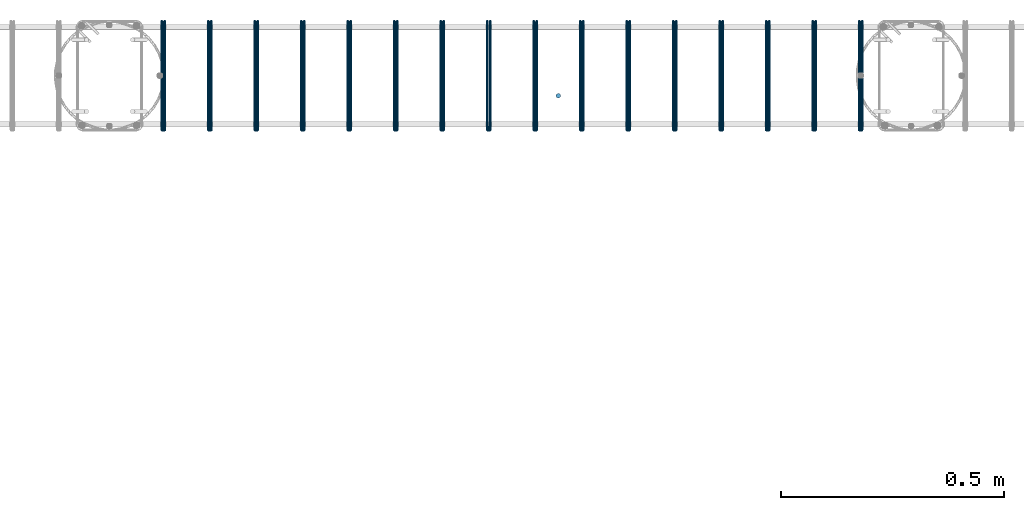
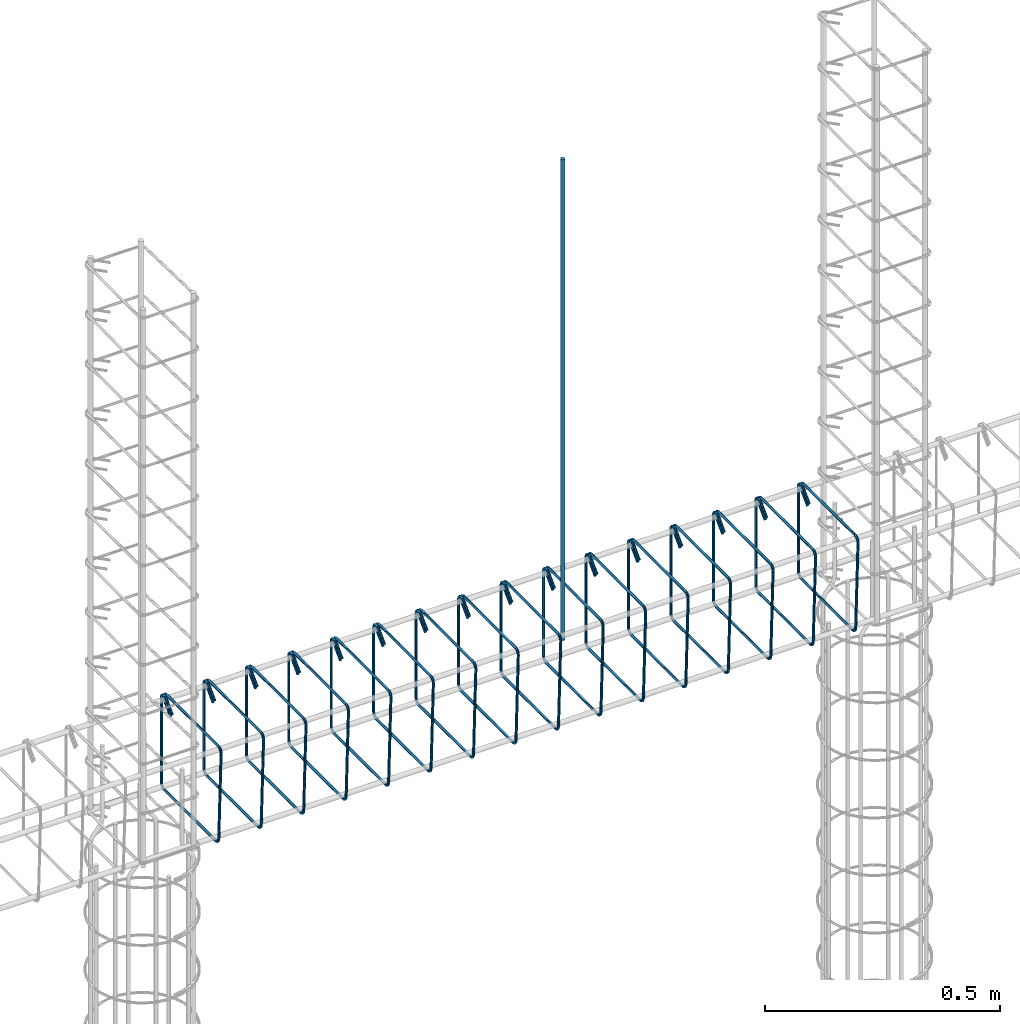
# One storey, part 8 of 14: 2 reinforcing bars.
"""IFC4 building model written with IfcOpenShell, lengths in centimetres."""

from ifc_helpers import new_model, entity, si_unit, converted_unit, derived_unit, direction, frame, origin, place, context, subcontext, project, spatial, type_object, element, save


model = new_model("IFC4")

# Units and contexts
model_context = context("Model", 3, precision=0.001, world=origin(), true_north=direction((6.123233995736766e-17, 1.0)))
body_context = subcontext(model_context, "Body", "Model", "MODEL_VIEW")
ifc_project = project(units=[si_unit("LENGTHUNIT", "METRE", prefix="CENTI"), si_unit("AREAUNIT", "SQUARE_METRE"), converted_unit("PLANEANGLEUNIT", "DEGREE", entity("IfcPlaneAngleMeasure", 0.017453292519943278), si_unit("PLANEANGLEUNIT", "RADIAN"), dimensions=[0, 0, 0, 0, 0, 0, 0]), si_unit("VOLUMEUNIT", "CUBIC_METRE"), derived_unit("THERMALTRANSMITTANCEUNIT", [(si_unit("MASSUNIT", "GRAM", prefix="KILO"), 1), (si_unit("THERMODYNAMICTEMPERATUREUNIT", "KELVIN"), -1), (si_unit("TIMEUNIT", "SECOND"), -3)])], contexts=[model_context])

# Site, building, storey
site_placement = place(None, origin())
site = spatial("IfcSite", under=ifc_project, at=site_placement, Name="Default", CompositionType="ELEMENT")
building_placement = place(site_placement, origin())
building = spatial("IfcBuilding", under=site, at=building_placement, Name="CONTENÇÃO DE ARQUIBANCADA - GINÁSIO PADRÃO", CompositionType="ELEMENT")
storey_placement = place(building_placement, frame((0.0, 0.0, -100.0)))
storey = spatial("IfcBuildingStorey", under=building, at=storey_placement, Name="Nível 3", CompositionType="ELEMENT", Elevation=-100.0)

# Reinforcing bars
reinforcing_bar_type_1 = type_object("IfcReinforcingBarType", Name="Barra do vergalhão:10 CA-50", PredefinedType="NOTDEFINED")
reinforcing_bar_1_placement = place(storey_placement, origin())
element("IfcReinforcingBar", 1, at=reinforcing_bar_1_placement, inside=storey, type_object=reinforcing_bar_type_1, Name="Barra do vergalhão:10 CA-50 : Forma 01", ObjectType="Barra do vergalhão:10 CA-50", context=body_context, shape_type="AdvancedSweptSolid", body=[
    entity("IfcSweptDiskSolid", entity("IfcIndexedPolyCurve", entity("IfcCartesianPointList3D", [[295.2053160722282, 244.57417522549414, 89.99999999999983], [295.2053160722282, 244.57417522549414, 214.99999999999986]]), None, False), 0.5, None, 0.0, 1.0),
])
reinforcing_bar_type_2 = type_object("IfcReinforcingBarType", Name="Barra do vergalhão:6.3 CA-50", PredefinedType="NOTDEFINED")
reinforcing_bar_2_placement = place(storey_placement, origin())
element("IfcReinforcingBar", 2, at=reinforcing_bar_2_placement, inside=storey, type_object=reinforcing_bar_type_2, Name="Barra do vergalhão:6.3 CA-50 : Forma 22", ObjectType="Barra do vergalhão:6.3 CA-50", context=body_context, shape_type="AdvancedSweptSolid", body=[
    entity("IfcSweptDiskSolid", entity("IfcIndexedPolyCurve", entity("IfcCartesianPointList3D", [[362.76131571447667, 256.5582557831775, 94.26598964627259], [362.76131571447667, 259.1082206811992, 96.8159545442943], [362.76131571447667, 260.48135635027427, 97.08908821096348], [362.76131571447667, 261.2591752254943, 95.92499999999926], [362.76131571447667, 261.25917522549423, 74.07499999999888], [362.76131571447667, 260.8901297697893, 73.18404545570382], [362.76131571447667, 259.9991752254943, 72.81499999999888], [362.76131571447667, 238.1491752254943, 72.81499999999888], [362.77085289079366, 237.25822068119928, 73.1839222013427], [362.79387767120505, 236.88917522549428, 74.0745791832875], [363.3587537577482, 236.88917522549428, 95.92542081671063], [363.38177853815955, 237.25822068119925, 96.81607779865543], [363.39131571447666, 238.1491752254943, 97.18499999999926], [363.3913157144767, 259.99917522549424, 97.18499999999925], [363.3913157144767, 261.16326343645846, 96.40718112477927], [363.3913157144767, 260.8901297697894, 95.0340454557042], [363.3913157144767, 258.3401648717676, 92.48408055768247]]), [entity("IfcLineIndex", [1, 2]), entity("IfcArcIndex", [2, 3, 4]), entity("IfcLineIndex", [4, 5]), entity("IfcArcIndex", [5, 6, 7]), entity("IfcLineIndex", [7, 8]), entity("IfcArcIndex", [8, 9, 10]), entity("IfcLineIndex", [10, 11]), entity("IfcArcIndex", [11, 12, 13]), entity("IfcLineIndex", [13, 14]), entity("IfcArcIndex", [14, 15, 16]), entity("IfcLineIndex", [16, 17])], False), 0.31499999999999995, None, 0.0, 546.0000000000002),
    entity("IfcSweptDiskSolid", entity("IfcIndexedPolyCurve", entity("IfcCartesianPointList3D", [[352.3255251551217, 256.5582557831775, 94.26598964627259], [352.3255251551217, 259.1082206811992, 96.8159545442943], [352.3255251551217, 260.48135635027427, 97.08908821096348], [352.3255251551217, 261.2591752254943, 95.92499999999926], [352.3255251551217, 261.25917522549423, 74.07499999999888], [352.3255251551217, 260.8901297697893, 73.18404545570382], [352.3255251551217, 259.9991752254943, 72.81499999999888], [352.3255251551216, 238.14917522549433, 72.81499999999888], [352.3350623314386, 237.2582206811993, 73.1839222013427], [352.35808711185, 236.8891752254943, 74.0745791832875], [352.9229631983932, 236.8891752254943, 95.92542081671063], [352.94598797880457, 237.25822068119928, 96.81607779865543], [352.9555251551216, 238.14917522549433, 97.18499999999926], [352.9555251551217, 259.99917522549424, 97.18499999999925], [352.9555251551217, 261.16326343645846, 96.40718112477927], [352.9555251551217, 260.8901297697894, 95.0340454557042], [352.9555251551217, 258.3401648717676, 92.48408055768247]]), [entity("IfcLineIndex", [1, 2]), entity("IfcArcIndex", [2, 3, 4]), entity("IfcLineIndex", [4, 5]), entity("IfcArcIndex", [5, 6, 7]), entity("IfcLineIndex", [7, 8]), entity("IfcArcIndex", [8, 9, 10]), entity("IfcLineIndex", [10, 11]), entity("IfcArcIndex", [11, 12, 13]), entity("IfcLineIndex", [13, 14]), entity("IfcArcIndex", [14, 15, 16]), entity("IfcLineIndex", [16, 17])], False), 0.31499999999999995, None, 0.0, 546.0000000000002),
    entity("IfcSweptDiskSolid", entity("IfcIndexedPolyCurve", entity("IfcCartesianPointList3D", [[341.8897345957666, 256.5582557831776, 94.26598964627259], [341.8897345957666, 259.10822068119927, 96.8159545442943], [341.8897345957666, 260.4813563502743, 97.08908821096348], [341.8897345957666, 261.25917522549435, 95.92499999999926], [341.8897345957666, 261.2591752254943, 74.07499999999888], [341.8897345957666, 260.8901297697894, 73.18404545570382], [341.8897345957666, 259.99917522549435, 72.81499999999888], [341.8897345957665, 238.14917522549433, 72.81499999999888], [341.8992717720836, 237.2582206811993, 73.1839222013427], [341.92229655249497, 236.8891752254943, 74.0745791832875], [342.4871726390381, 236.8891752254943, 95.92542081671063], [342.51019741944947, 237.25822068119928, 96.81607779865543], [342.5197345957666, 238.14917522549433, 97.18499999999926], [342.51973459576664, 259.9991752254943, 97.18499999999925], [342.51973459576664, 261.1632634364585, 96.40718112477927], [342.51973459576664, 260.8901297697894, 95.0340454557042], [342.51973459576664, 258.3401648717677, 92.48408055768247]]), [entity("IfcLineIndex", [1, 2]), entity("IfcArcIndex", [2, 3, 4]), entity("IfcLineIndex", [4, 5]), entity("IfcArcIndex", [5, 6, 7]), entity("IfcLineIndex", [7, 8]), entity("IfcArcIndex", [8, 9, 10]), entity("IfcLineIndex", [10, 11]), entity("IfcArcIndex", [11, 12, 13]), entity("IfcLineIndex", [13, 14]), entity("IfcArcIndex", [14, 15, 16]), entity("IfcLineIndex", [16, 17])], False), 0.31499999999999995, None, 0.0, 546.0000000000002),
    entity("IfcSweptDiskSolid", entity("IfcIndexedPolyCurve", entity("IfcCartesianPointList3D", [[331.45394403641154, 256.5582557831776, 94.26598964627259], [331.45394403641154, 259.10822068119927, 96.8159545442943], [331.45394403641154, 260.4813563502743, 97.08908821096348], [331.45394403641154, 261.25917522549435, 95.92499999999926], [331.45394403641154, 261.2591752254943, 74.07499999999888], [331.45394403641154, 260.8901297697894, 73.18404545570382], [331.45394403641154, 259.99917522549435, 72.81499999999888], [331.4539440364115, 238.14917522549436, 72.81499999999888], [331.46348121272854, 237.25822068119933, 73.1839222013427], [331.48650599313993, 236.88917522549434, 74.0745791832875], [332.0513820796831, 236.88917522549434, 95.92542081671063], [332.0744068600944, 237.2582206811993, 96.81607779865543], [332.08394403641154, 238.14917522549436, 97.18499999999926], [332.0839440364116, 259.9991752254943, 97.18499999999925], [332.0839440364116, 261.1632634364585, 96.40718112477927], [332.0839440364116, 260.8901297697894, 95.0340454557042], [332.0839440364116, 258.3401648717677, 92.48408055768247]]), [entity("IfcLineIndex", [1, 2]), entity("IfcArcIndex", [2, 3, 4]), entity("IfcLineIndex", [4, 5]), entity("IfcArcIndex", [5, 6, 7]), entity("IfcLineIndex", [7, 8]), entity("IfcArcIndex", [8, 9, 10]), entity("IfcLineIndex", [10, 11]), entity("IfcArcIndex", [11, 12, 13]), entity("IfcLineIndex", [13, 14]), entity("IfcArcIndex", [14, 15, 16]), entity("IfcLineIndex", [16, 17])], False), 0.31499999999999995, None, 0.0, 546.0000000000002),
    entity("IfcSweptDiskSolid", entity("IfcIndexedPolyCurve", entity("IfcCartesianPointList3D", [[321.0181534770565, 256.5582557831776, 94.26598964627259], [321.0181534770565, 259.10822068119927, 96.8159545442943], [321.0181534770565, 260.4813563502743, 97.08908821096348], [321.0181534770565, 261.25917522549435, 95.92499999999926], [321.0181534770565, 261.2591752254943, 74.07499999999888], [321.0181534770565, 260.8901297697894, 73.18404545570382], [321.0181534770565, 259.99917522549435, 72.81499999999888], [321.01815347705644, 238.1491752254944, 72.81499999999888], [321.02769065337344, 237.25822068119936, 73.1839222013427], [321.05071543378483, 236.88917522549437, 74.0745791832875], [321.615591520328, 236.88917522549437, 95.92542081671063], [321.6386163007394, 237.25822068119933, 96.81607779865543], [321.64815347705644, 238.1491752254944, 97.18499999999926], [321.6481534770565, 259.9991752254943, 97.18499999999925], [321.6481534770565, 261.1632634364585, 96.40718112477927], [321.6481534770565, 260.8901297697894, 95.0340454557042], [321.6481534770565, 258.3401648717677, 92.48408055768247]]), [entity("IfcLineIndex", [1, 2]), entity("IfcArcIndex", [2, 3, 4]), entity("IfcLineIndex", [4, 5]), entity("IfcArcIndex", [5, 6, 7]), entity("IfcLineIndex", [7, 8]), entity("IfcArcIndex", [8, 9, 10]), entity("IfcLineIndex", [10, 11]), entity("IfcArcIndex", [11, 12, 13]), entity("IfcLineIndex", [13, 14]), entity("IfcArcIndex", [14, 15, 16]), entity("IfcLineIndex", [16, 17])], False), 0.31499999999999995, None, 0.0, 546.0000000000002),
    entity("IfcSweptDiskSolid", entity("IfcIndexedPolyCurve", entity("IfcCartesianPointList3D", [[310.58236291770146, 256.55825578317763, 94.26598964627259], [310.58236291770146, 259.1082206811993, 96.8159545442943], [310.58236291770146, 260.4813563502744, 97.08908821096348], [310.58236291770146, 261.2591752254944, 95.92499999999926], [310.58236291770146, 261.25917522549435, 74.07499999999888], [310.58236291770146, 260.8901297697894, 73.18404545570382], [310.58236291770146, 259.9991752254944, 72.81499999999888], [310.5823629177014, 238.1491752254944, 72.81499999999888], [310.59190009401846, 237.25822068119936, 73.1839222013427], [310.61492487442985, 236.88917522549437, 74.0745791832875], [311.17980096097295, 236.88917522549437, 95.92542081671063], [311.20282574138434, 237.25822068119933, 96.81607779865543], [311.21236291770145, 238.1491752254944, 97.18499999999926], [311.2123629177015, 259.99917522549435, 97.18499999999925], [311.2123629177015, 261.1632634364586, 96.40718112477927], [311.2123629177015, 260.89012976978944, 95.0340454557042], [311.2123629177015, 258.34016487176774, 92.48408055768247]]), [entity("IfcLineIndex", [1, 2]), entity("IfcArcIndex", [2, 3, 4]), entity("IfcLineIndex", [4, 5]), entity("IfcArcIndex", [5, 6, 7]), entity("IfcLineIndex", [7, 8]), entity("IfcArcIndex", [8, 9, 10]), entity("IfcLineIndex", [10, 11]), entity("IfcArcIndex", [11, 12, 13]), entity("IfcLineIndex", [13, 14]), entity("IfcArcIndex", [14, 15, 16]), entity("IfcLineIndex", [16, 17])], False), 0.31499999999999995, None, 0.0, 546.0000000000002),
    entity("IfcSweptDiskSolid", entity("IfcIndexedPolyCurve", entity("IfcCartesianPointList3D", [[300.14657235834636, 256.55825578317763, 94.26598964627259], [300.14657235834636, 259.1082206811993, 96.8159545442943], [300.14657235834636, 260.4813563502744, 97.08908821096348], [300.14657235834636, 261.2591752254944, 95.92499999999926], [300.14657235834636, 261.25917522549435, 74.07499999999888], [300.14657235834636, 260.8901297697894, 73.18404545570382], [300.14657235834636, 259.9991752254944, 72.81499999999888], [300.14657235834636, 238.14917522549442, 72.81499999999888], [300.15610953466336, 237.2582206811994, 73.1839222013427], [300.17913431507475, 236.8891752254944, 74.0745791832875], [300.7440104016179, 236.8891752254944, 95.92542081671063], [300.7670351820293, 237.25822068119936, 96.81607779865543], [300.77657235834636, 238.14917522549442, 97.18499999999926], [300.7765723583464, 259.99917522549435, 97.18499999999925], [300.7765723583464, 261.1632634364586, 96.40718112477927], [300.7765723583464, 260.89012976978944, 95.0340454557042], [300.7765723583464, 258.34016487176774, 92.48408055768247]]), [entity("IfcLineIndex", [1, 2]), entity("IfcArcIndex", [2, 3, 4]), entity("IfcLineIndex", [4, 5]), entity("IfcArcIndex", [5, 6, 7]), entity("IfcLineIndex", [7, 8]), entity("IfcArcIndex", [8, 9, 10]), entity("IfcLineIndex", [10, 11]), entity("IfcArcIndex", [11, 12, 13]), entity("IfcLineIndex", [13, 14]), entity("IfcArcIndex", [14, 15, 16]), entity("IfcLineIndex", [16, 17])], False), 0.31499999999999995, None, 0.0, 546.0000000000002),
    entity("IfcSweptDiskSolid", entity("IfcIndexedPolyCurve", entity("IfcCartesianPointList3D", [[289.7107817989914, 256.55825578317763, 94.26598964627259], [289.7107817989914, 259.1082206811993, 96.8159545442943], [289.7107817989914, 260.4813563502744, 97.08908821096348], [289.7107817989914, 261.2591752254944, 95.92499999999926], [289.7107817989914, 261.25917522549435, 74.07499999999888], [289.7107817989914, 260.8901297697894, 73.18404545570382], [289.7107817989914, 259.9991752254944, 72.81499999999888], [289.7107817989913, 238.14917522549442, 72.81499999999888], [289.7203189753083, 237.2582206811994, 73.1839222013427], [289.7433437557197, 236.8891752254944, 74.0745791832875], [290.3082198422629, 236.8891752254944, 95.92542081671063], [290.33124462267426, 237.25822068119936, 96.81607779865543], [290.3407817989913, 238.14917522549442, 97.18499999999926], [290.3407817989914, 259.99917522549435, 97.18499999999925], [290.3407817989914, 261.1632634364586, 96.40718112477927], [290.3407817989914, 260.89012976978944, 95.0340454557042], [290.3407817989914, 258.34016487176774, 92.48408055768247]]), [entity("IfcLineIndex", [1, 2]), entity("IfcArcIndex", [2, 3, 4]), entity("IfcLineIndex", [4, 5]), entity("IfcArcIndex", [5, 6, 7]), entity("IfcLineIndex", [7, 8]), entity("IfcArcIndex", [8, 9, 10]), entity("IfcLineIndex", [10, 11]), entity("IfcArcIndex", [11, 12, 13]), entity("IfcLineIndex", [13, 14]), entity("IfcArcIndex", [14, 15, 16]), entity("IfcLineIndex", [16, 17])], False), 0.31499999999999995, None, 0.0, 546.0000000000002),
    entity("IfcSweptDiskSolid", entity("IfcIndexedPolyCurve", entity("IfcCartesianPointList3D", [[279.2749912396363, 256.5582557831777, 94.26598964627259], [279.2749912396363, 259.1082206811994, 96.8159545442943], [279.2749912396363, 260.48135635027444, 97.08908821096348], [279.2749912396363, 261.25917522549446, 95.92499999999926], [279.2749912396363, 261.2591752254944, 74.07499999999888], [279.2749912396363, 260.89012976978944, 73.18404545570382], [279.2749912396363, 259.99917522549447, 72.81499999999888], [279.2749912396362, 238.14917522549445, 72.81499999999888], [279.2845284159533, 237.25822068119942, 73.1839222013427], [279.30755319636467, 236.88917522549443, 74.0745791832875], [279.8724292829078, 236.88917522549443, 95.92542081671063], [279.89545406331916, 237.2582206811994, 96.81607779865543], [279.9049912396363, 238.14917522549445, 97.18499999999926], [279.90499123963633, 259.9991752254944, 97.18499999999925], [279.90499123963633, 261.16326343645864, 96.40718112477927], [279.90499123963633, 260.8901297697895, 95.0340454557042], [279.90499123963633, 258.3401648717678, 92.48408055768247]]), [entity("IfcLineIndex", [1, 2]), entity("IfcArcIndex", [2, 3, 4]), entity("IfcLineIndex", [4, 5]), entity("IfcArcIndex", [5, 6, 7]), entity("IfcLineIndex", [7, 8]), entity("IfcArcIndex", [8, 9, 10]), entity("IfcLineIndex", [10, 11]), entity("IfcArcIndex", [11, 12, 13]), entity("IfcLineIndex", [13, 14]), entity("IfcArcIndex", [14, 15, 16]), entity("IfcLineIndex", [16, 17])], False), 0.31499999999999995, None, 0.0, 546.0000000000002),
    entity("IfcSweptDiskSolid", entity("IfcIndexedPolyCurve", entity("IfcCartesianPointList3D", [[268.83920068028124, 256.5582557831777, 94.26598964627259], [268.83920068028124, 259.1082206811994, 96.8159545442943], [268.83920068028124, 260.48135635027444, 97.08908821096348], [268.83920068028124, 261.25917522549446, 95.92499999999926], [268.83920068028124, 261.2591752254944, 74.07499999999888], [268.83920068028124, 260.89012976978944, 73.18404545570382], [268.83920068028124, 259.99917522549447, 72.81499999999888], [268.83920068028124, 238.14917522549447, 72.81499999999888], [268.84873785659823, 237.25822068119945, 73.1839222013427], [268.8717626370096, 236.88917522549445, 74.0745791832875], [269.4366387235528, 236.88917522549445, 95.92542081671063], [269.4596635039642, 237.25822068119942, 96.81607779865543], [269.46920068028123, 238.14917522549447, 97.18499999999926], [269.4692006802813, 259.9991752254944, 97.18499999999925], [269.4692006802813, 261.16326343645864, 96.40718112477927], [269.4692006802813, 260.8901297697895, 95.0340454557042], [269.4692006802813, 258.3401648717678, 92.48408055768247]]), [entity("IfcLineIndex", [1, 2]), entity("IfcArcIndex", [2, 3, 4]), entity("IfcLineIndex", [4, 5]), entity("IfcArcIndex", [5, 6, 7]), entity("IfcLineIndex", [7, 8]), entity("IfcArcIndex", [8, 9, 10]), entity("IfcLineIndex", [10, 11]), entity("IfcArcIndex", [11, 12, 13]), entity("IfcLineIndex", [13, 14]), entity("IfcArcIndex", [14, 15, 16]), entity("IfcLineIndex", [16, 17])], False), 0.31499999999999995, None, 0.0, 546.0000000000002),
    entity("IfcSweptDiskSolid", entity("IfcIndexedPolyCurve", entity("IfcCartesianPointList3D", [[258.40341012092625, 256.5582557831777, 94.26598964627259], [258.40341012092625, 259.1082206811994, 96.8159545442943], [258.40341012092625, 260.48135635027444, 97.08908821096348], [258.40341012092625, 261.25917522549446, 95.92499999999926], [258.40341012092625, 261.2591752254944, 74.07499999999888], [258.40341012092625, 260.89012976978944, 73.18404545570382], [258.40341012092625, 259.99917522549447, 72.81499999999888], [258.4034101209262, 238.14917522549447, 72.81499999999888], [258.4129472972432, 237.25822068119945, 73.1839222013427], [258.4359720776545, 236.88917522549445, 74.0745791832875], [259.00084816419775, 236.88917522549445, 95.92542081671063], [259.02387294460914, 237.25822068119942, 96.81607779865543], [259.0334101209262, 238.14917522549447, 97.18499999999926], [259.0334101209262, 259.9991752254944, 97.18499999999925], [259.0334101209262, 261.16326343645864, 96.40718112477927], [259.0334101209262, 260.8901297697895, 95.0340454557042], [259.0334101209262, 258.3401648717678, 92.48408055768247]]), [entity("IfcLineIndex", [1, 2]), entity("IfcArcIndex", [2, 3, 4]), entity("IfcLineIndex", [4, 5]), entity("IfcArcIndex", [5, 6, 7]), entity("IfcLineIndex", [7, 8]), entity("IfcArcIndex", [8, 9, 10]), entity("IfcLineIndex", [10, 11]), entity("IfcArcIndex", [11, 12, 13]), entity("IfcLineIndex", [13, 14]), entity("IfcArcIndex", [14, 15, 16]), entity("IfcLineIndex", [16, 17])], False), 0.31499999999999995, None, 0.0, 546.0000000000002),
    entity("IfcSweptDiskSolid", entity("IfcIndexedPolyCurve", entity("IfcCartesianPointList3D", [[247.96761956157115, 256.5582557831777, 94.26598964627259], [247.96761956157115, 259.1082206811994, 96.8159545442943], [247.96761956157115, 260.48135635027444, 97.08908821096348], [247.96761956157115, 261.25917522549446, 95.92499999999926], [247.96761956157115, 261.2591752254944, 74.07499999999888], [247.96761956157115, 260.89012976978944, 73.18404545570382], [247.96761956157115, 259.99917522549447, 72.81499999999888], [247.9676195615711, 238.1491752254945, 72.81499999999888], [247.97715673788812, 237.25822068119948, 73.1839222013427], [248.0001815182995, 236.88917522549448, 74.0745791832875], [248.56505760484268, 236.88917522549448, 95.92542081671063], [248.58808238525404, 237.25822068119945, 96.81607779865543], [248.59761956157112, 238.1491752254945, 97.18499999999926], [248.59761956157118, 259.9991752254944, 97.18499999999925], [248.59761956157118, 261.16326343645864, 96.40718112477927], [248.59761956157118, 260.8901297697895, 95.0340454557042], [248.59761956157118, 258.3401648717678, 92.48408055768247]]), [entity("IfcLineIndex", [1, 2]), entity("IfcArcIndex", [2, 3, 4]), entity("IfcLineIndex", [4, 5]), entity("IfcArcIndex", [5, 6, 7]), entity("IfcLineIndex", [7, 8]), entity("IfcArcIndex", [8, 9, 10]), entity("IfcLineIndex", [10, 11]), entity("IfcArcIndex", [11, 12, 13]), entity("IfcLineIndex", [13, 14]), entity("IfcArcIndex", [14, 15, 16]), entity("IfcLineIndex", [16, 17])], False), 0.31499999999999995, None, 0.0, 546.0000000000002),
    entity("IfcSweptDiskSolid", entity("IfcIndexedPolyCurve", entity("IfcCartesianPointList3D", [[237.5318290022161, 256.55825578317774, 94.26598964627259], [237.5318290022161, 259.10822068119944, 96.8159545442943], [237.5318290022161, 260.4813563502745, 97.08908821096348], [237.5318290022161, 261.2591752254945, 95.92499999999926], [237.5318290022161, 261.25917522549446, 74.07499999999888], [237.5318290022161, 260.8901297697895, 73.18404545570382], [237.5318290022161, 259.9991752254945, 72.81499999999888], [237.53182900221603, 238.14917522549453, 72.81499999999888], [237.54136617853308, 237.2582206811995, 73.1839222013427], [237.5643909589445, 236.8891752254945, 74.0745791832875], [238.1292670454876, 236.8891752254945, 95.92542081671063], [238.152291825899, 237.25822068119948, 96.81607779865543], [238.16182900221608, 238.14917522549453, 97.18499999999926], [238.16182900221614, 259.99917522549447, 97.18499999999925], [238.16182900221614, 261.1632634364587, 96.40718112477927], [238.16182900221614, 260.89012976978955, 95.0340454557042], [238.16182900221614, 258.34016487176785, 92.48408055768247]]), [entity("IfcLineIndex", [1, 2]), entity("IfcArcIndex", [2, 3, 4]), entity("IfcLineIndex", [4, 5]), entity("IfcArcIndex", [5, 6, 7]), entity("IfcLineIndex", [7, 8]), entity("IfcArcIndex", [8, 9, 10]), entity("IfcLineIndex", [10, 11]), entity("IfcArcIndex", [11, 12, 13]), entity("IfcLineIndex", [13, 14]), entity("IfcArcIndex", [14, 15, 16]), entity("IfcLineIndex", [16, 17])], False), 0.31499999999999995, None, 0.0, 546.0000000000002),
    entity("IfcSweptDiskSolid", entity("IfcIndexedPolyCurve", entity("IfcCartesianPointList3D", [[227.09603844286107, 256.55825578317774, 94.26598964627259], [227.09603844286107, 259.10822068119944, 96.8159545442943], [227.09603844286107, 260.4813563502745, 97.08908821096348], [227.09603844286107, 261.2591752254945, 95.92499999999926], [227.09603844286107, 261.25917522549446, 74.07499999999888], [227.09603844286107, 260.8901297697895, 73.18404545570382], [227.09603844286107, 259.9991752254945, 72.81499999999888], [227.096038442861, 238.14917522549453, 72.81499999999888], [227.10557561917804, 237.2582206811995, 73.1839222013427], [227.12860039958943, 236.8891752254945, 74.0745791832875], [227.69347648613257, 236.8891752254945, 95.92542081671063], [227.71650126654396, 237.25822068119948, 96.81607779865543], [227.72603844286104, 238.14917522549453, 97.18499999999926], [227.72603844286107, 259.99917522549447, 97.18499999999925], [227.72603844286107, 261.1632634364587, 96.40718112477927], [227.72603844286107, 260.89012976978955, 95.0340454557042], [227.72603844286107, 258.34016487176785, 92.48408055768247]]), [entity("IfcLineIndex", [1, 2]), entity("IfcArcIndex", [2, 3, 4]), entity("IfcLineIndex", [4, 5]), entity("IfcArcIndex", [5, 6, 7]), entity("IfcLineIndex", [7, 8]), entity("IfcArcIndex", [8, 9, 10]), entity("IfcLineIndex", [10, 11]), entity("IfcArcIndex", [11, 12, 13]), entity("IfcLineIndex", [13, 14]), entity("IfcArcIndex", [14, 15, 16]), entity("IfcLineIndex", [16, 17])], False), 0.31499999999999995, None, 0.0, 546.0000000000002),
    entity("IfcSweptDiskSolid", entity("IfcIndexedPolyCurve", entity("IfcCartesianPointList3D", [[216.660247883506, 256.55825578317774, 94.26598964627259], [216.660247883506, 259.10822068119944, 96.8159545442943], [216.660247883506, 260.4813563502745, 97.08908821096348], [216.660247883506, 261.2591752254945, 95.92499999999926], [216.660247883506, 261.25917522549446, 74.07499999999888], [216.660247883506, 260.8901297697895, 73.18404545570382], [216.660247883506, 259.9991752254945, 72.81499999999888], [216.66024788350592, 238.14917522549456, 72.81499999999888], [216.66978505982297, 237.25822068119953, 73.1839222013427], [216.6928098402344, 236.88917522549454, 74.0745791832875], [217.25768592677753, 236.88917522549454, 95.92542081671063], [217.2807107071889, 237.2582206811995, 96.81607779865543], [217.29024788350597, 238.14917522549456, 97.18499999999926], [217.29024788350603, 259.99917522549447, 97.18499999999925], [217.29024788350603, 261.1632634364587, 96.40718112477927], [217.29024788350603, 260.89012976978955, 95.0340454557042], [217.29024788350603, 258.34016487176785, 92.48408055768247]]), [entity("IfcLineIndex", [1, 2]), entity("IfcArcIndex", [2, 3, 4]), entity("IfcLineIndex", [4, 5]), entity("IfcArcIndex", [5, 6, 7]), entity("IfcLineIndex", [7, 8]), entity("IfcArcIndex", [8, 9, 10]), entity("IfcLineIndex", [10, 11]), entity("IfcArcIndex", [11, 12, 13]), entity("IfcLineIndex", [13, 14]), entity("IfcArcIndex", [14, 15, 16]), entity("IfcLineIndex", [16, 17])], False), 0.31499999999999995, None, 0.0, 546.0000000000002),
    entity("IfcSweptDiskSolid", entity("IfcIndexedPolyCurve", entity("IfcCartesianPointList3D", [[206.22445732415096, 256.5582557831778, 94.26598964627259], [206.22445732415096, 259.1082206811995, 96.8159545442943], [206.22445732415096, 260.48135635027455, 97.08908821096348], [206.22445732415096, 261.2591752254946, 95.92499999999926], [206.22445732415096, 261.2591752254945, 74.07499999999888], [206.22445732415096, 260.89012976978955, 73.18404545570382], [206.22445732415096, 259.9991752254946, 72.81499999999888], [206.22445732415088, 238.14917522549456, 72.81499999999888], [206.23399450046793, 237.25822068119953, 73.1839222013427], [206.25701928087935, 236.88917522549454, 74.0745791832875], [206.82189536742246, 236.88917522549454, 95.92542081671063], [206.84492014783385, 237.2582206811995, 96.81607779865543], [206.85445732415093, 238.14917522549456, 97.18499999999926], [206.85445732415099, 259.9991752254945, 97.18499999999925], [206.85445732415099, 261.16326343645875, 96.40718112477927], [206.85445732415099, 260.8901297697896, 95.0340454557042], [206.85445732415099, 258.3401648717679, 92.48408055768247]]), [entity("IfcLineIndex", [1, 2]), entity("IfcArcIndex", [2, 3, 4]), entity("IfcLineIndex", [4, 5]), entity("IfcArcIndex", [5, 6, 7]), entity("IfcLineIndex", [7, 8]), entity("IfcArcIndex", [8, 9, 10]), entity("IfcLineIndex", [10, 11]), entity("IfcArcIndex", [11, 12, 13]), entity("IfcLineIndex", [13, 14]), entity("IfcArcIndex", [14, 15, 16]), entity("IfcLineIndex", [16, 17])], False), 0.31499999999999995, None, 0.0, 546.0000000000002),
])

save(model, "model.ifc")
